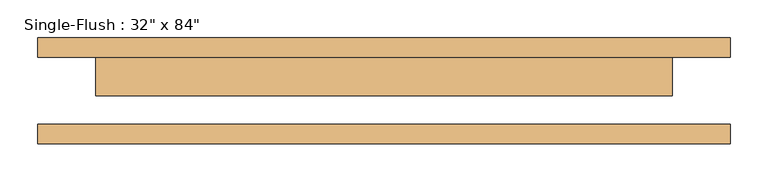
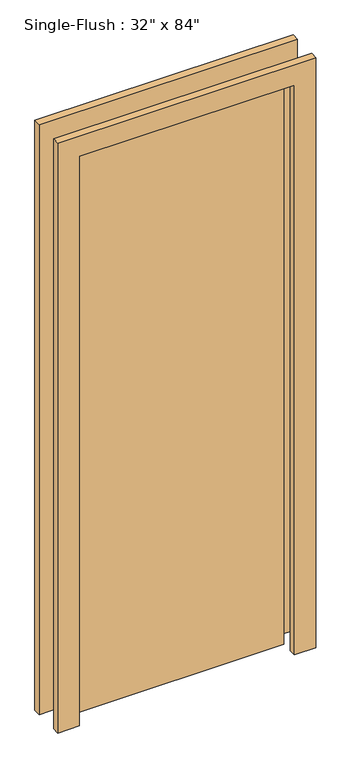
"""IFC4 building model written with IfcOpenShell, lengths in millimetres: door geometry."""

from ifc_helpers import new_model, si_unit, frame, origin, origin_with_axes, place, context, project, spatial, polyline, outline, extrude, source, transform, mapped, element, save


def door_96857f77(model_context):
    return source(origin(), model_context, "Body", "SweptSolid", [
        extrude(outline(polyline([(2209.8, -457.2), (0.0, -457.2), (0.0, -381.0), (2133.6, -381.0), (2133.6, 381.0), (0.0, 381.0), (0.0, 457.2), (2209.8, 457.2), (2209.8, -457.2)])), frame((0.0, 44.45, 0.0), z_axis=(0.0, 1.0, 0.0), x_axis=(0.0, 0.0, 1.0)), (0.0, 0.0, 1.0), 25.4),
        extrude(outline(polyline([(2209.8, 457.2), (2209.8, -457.2), (0.0, -457.2), (0.0, -381.0), (2133.6, -381.0), (2133.6, 381.0), (0.0, 381.0), (0.0, 457.2), (2209.8, 457.2)])), frame((0.0, -69.85, 0.0), z_axis=(0.0, 1.0, 0.0), x_axis=(0.0, 0.0, 1.0)), (0.0, 0.0, 1.0), 25.4),
        extrude(outline(polyline([(381.0, -6.35), (-381.0, -6.35), (-381.0, 44.45), (381.0, 44.45), (381.0, -6.35)])), origin_with_axes(), (0.0, 0.0, 1.0), 2133.6),
    ])


if __name__ == "__main__":
    model = new_model("IFC4")
    model_context = context("Model", 3, world=origin())
    ifc_project = project(units=[si_unit("LENGTHUNIT", "METRE", prefix="MILLI")], contexts=[model_context])
    site = spatial("IfcSite", under=ifc_project)
    building = spatial("IfcBuilding", under=site)
    placement = place(None, origin())
    door_shape = door_96857f77(model_context)
    element("IfcDoor", 1, ObjectType="Single-Flush : 32\" x 84\"", at=placement, inside=building, context=model_context, shape_type="MappedRepresentation", body=[
        mapped(door_shape, transform((0.0, 0.0, 0.0), x_axis=(1.0, 0.0, 0.0), y_axis=(0.0, 1.0, 0.0), z_axis=(0.0, 0.0, 1.0))),
    ])
    save(model, "model.ifc")
